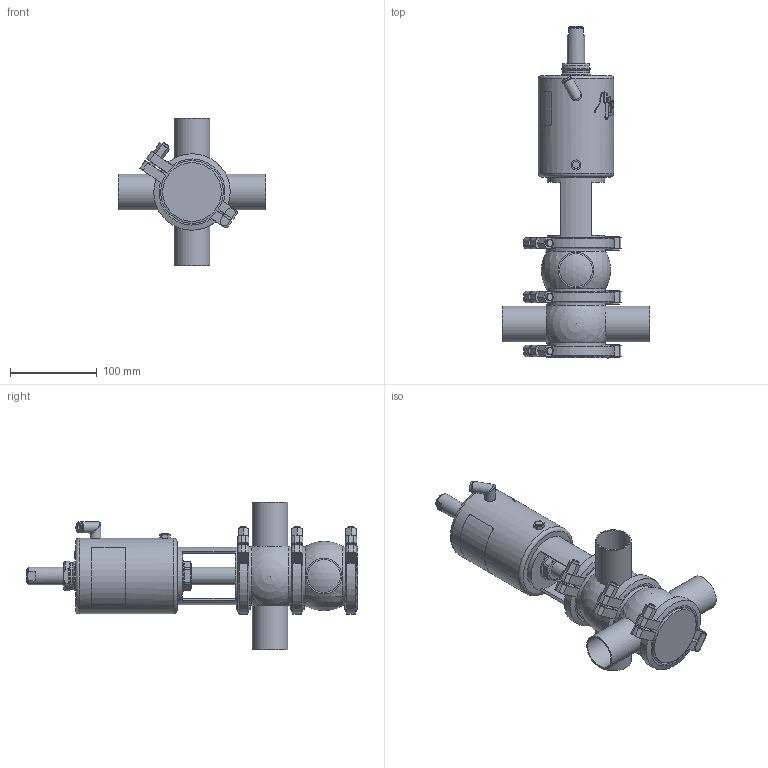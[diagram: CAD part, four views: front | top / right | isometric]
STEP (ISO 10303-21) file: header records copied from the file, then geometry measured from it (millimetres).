
FILE_DESCRIPTION (( 'STEP AP214' ), '1' );
FILE_NAME ('INNOVA M C W DIN 040 T1 AS NC_10.241.16.0007.STEP', '2024-08-07T12:39:29', ( '' ), ( '' ), 'SwSTEP 2.0', 'SolidWorks 2023', '' );
FILE_SCHEMA (( 'AUTOMOTIVE_DESIGN' ));
Length unit declared in the file: millimetre
Products named in the file (6): 10.240.15.0014_T1 AS P180; 10.240.15.0010_DN 040; 10.240.15.0001_DN 040; INNOVA M C W DIN 040 T1 AS NC_10.241.16.0007; 10.240.15.0007_DIN 040; 10.241.15.0001_DIN 040
Assembly tree (8 placements, depth 2):
  INNOVA M C W DIN 040 T1 AS NC_10.241.16.0007
    10.240.15.0007_DIN 040  x2
    10.240.15.0010_DN 040
    10.240.15.0014_T1 AS P180
    10.240.15.0001_DN 040  x3
    10.241.15.0001_DIN 040
Bounding box: 170 x 382.07 x 170 mm (x, y, z)
Volume: 1518353.8 mm3; surface area: 244958.1 mm2
Topology: 9 solids, 9 shells, 467 faces, 1223 edges, 798 vertices
Faces by surface type: plane 227, cylinder 114, bspline 80, cone 36, sphere 6, torus 4
Full cylindrical faces by diameter (mm): 6.15 x1, 8 x7, 8.5 x1, 10.5 x1, 12.5 x3, 16 x1, 20 x2, 31 x1, 34.5 x2, 36.5 x1, 38 x4, 41 x4, 66 x1, 67.5 x5, 79.5 x6, 87 x1
Entity records: 19362 total; most frequent: CARTESIAN_POINT 10185, ORIENTED_EDGE 1600, DIRECTION 1221, EDGE_CURVE 800, VERTEX_POINT 551, AXIS2_PLACEMENT_3D 466, EDGE_LOOP 407, FACE_OUTER_BOUND 366
